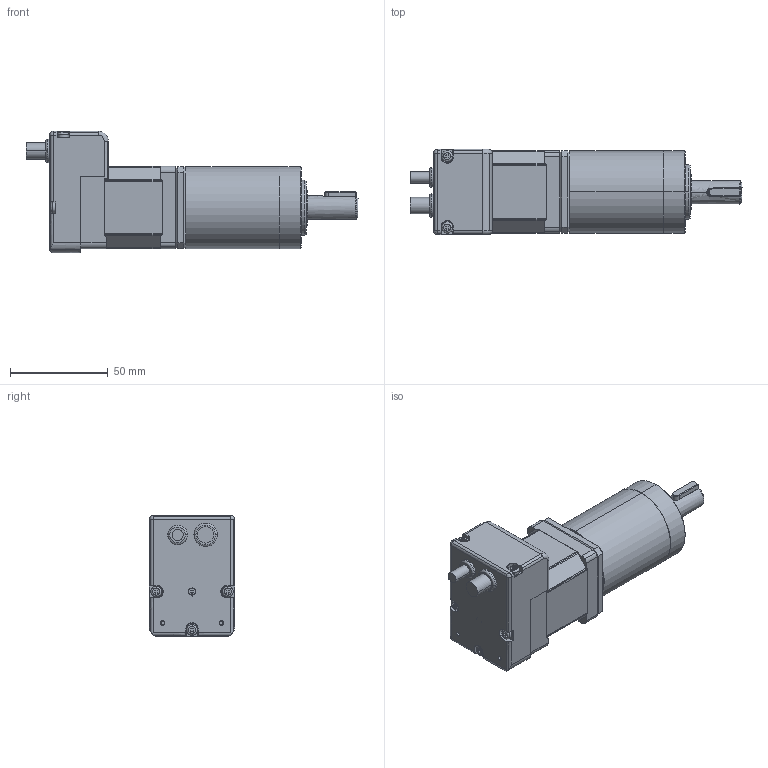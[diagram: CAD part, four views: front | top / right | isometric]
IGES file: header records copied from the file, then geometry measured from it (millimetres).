
Start section: IMSI TurboCAD v14.0
Global section: author: NULL; organization: NULL; date: 20110918.213225; units: millimetre
Bounding box: 169.5 x 43.5 x 62 mm (x, y, z)
Surface area: 52706.5 mm2 (no closed solid volume)
Topology: 0 solids, 0 shells, 616 faces, 3036 edges, 3034 vertices
Faces by surface type: revolution 348, extrusion 254, bspline 14
